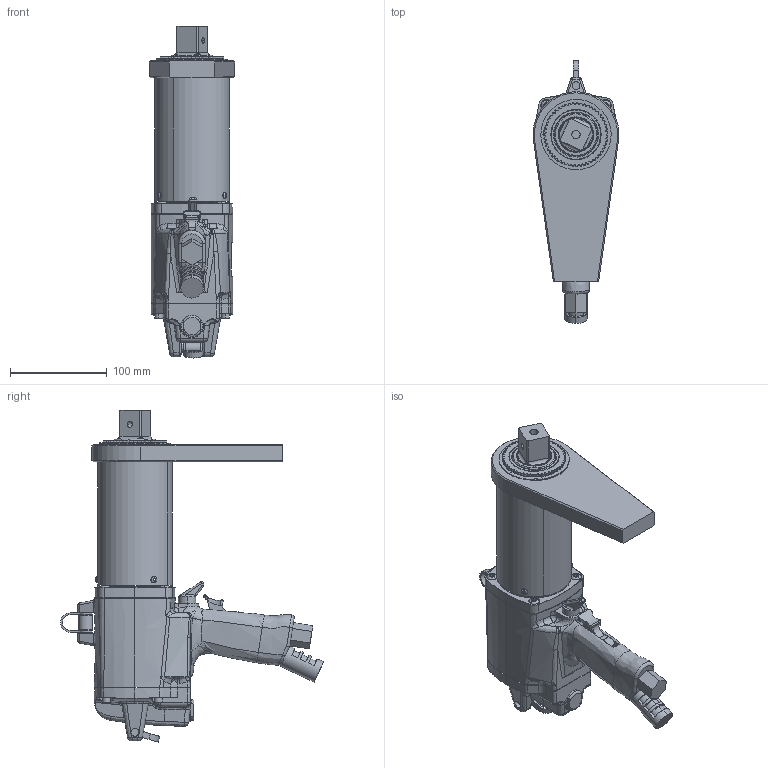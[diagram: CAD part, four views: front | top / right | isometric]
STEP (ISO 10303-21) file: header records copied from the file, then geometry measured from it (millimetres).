
FILE_DESCRIPTION (( 'STEP AP214' ), '1' );
FILE_NAME ('AAP1B771800A.STEP', '2014-12-06T00:14:23', ( 'AIMCO' ), ( '' ), 'SwSTEP 2.0', 'SolidWorks 2014', '' );
FILE_SCHEMA (( 'AUTOMOTIVE_DESIGN' ));
Length unit declared in the file: inch
Products named in the file (1): AAP1B771800A
Bounding box: 88.86 x 272.07 x 343.55 mm (x, y, z)
Surface area: 184569.8 mm2 (no closed solid volume)
Topology: 0 solids, 30 shells, 897 faces, 3702 edges, 2789 vertices
Faces by surface type: bspline 296, cylinder 279, plane 221, cone 76, torus 25
Entity records: 126095 total; most frequent: CARTESIAN_POINT 88488, ORIENTED_EDGE 5696, DIRECTION 4009, EDGE_CURVE 3676, VERTEX_POINT 2789, B_SPLINE_CURVE_WITH_KNOTS 1651, AXIS2_PLACEMENT_3D 1455, VECTOR 1099
